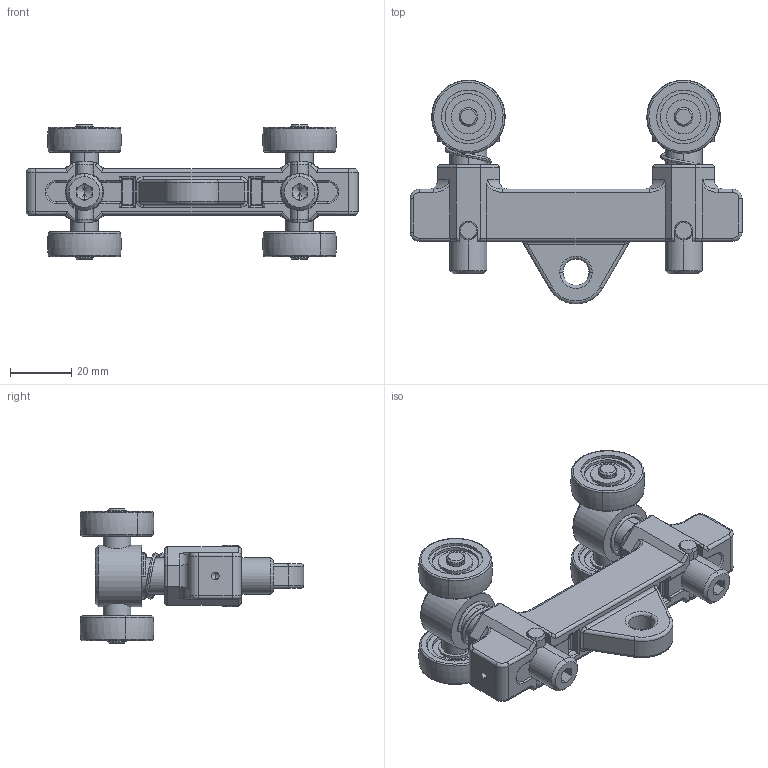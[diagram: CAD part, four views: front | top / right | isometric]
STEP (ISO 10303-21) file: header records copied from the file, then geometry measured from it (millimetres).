
FILE_DESCRIPTION (( 'STEP AP203' ), '1' );
FILE_NAME ('800.019.102.STEP', '2013-01-22T14:15:07', ( 'Alusic' ), ( 'Alusic' ), 'SwSTEP 2.0', 'SolidWorks 2011', '' );
FILE_SCHEMA (( 'CONFIG_CONTROL_DESIGN' ));
Length unit declared in the file: millimetre
Products named in the file (9): 800.019.121; 800.019.119; 800.019.102; 800.019.120; 800.019.117; 800.019.116_Default<A macchina>; Parallel Pin Hardened_BSI_Parallel Pin ISO 8734 - 6 x 20 - A - St; 800.019.118; 800.019.114
Assembly tree (21 placements, depth 2):
  800.019.102
    800.019.118  x2
    800.019.120  x4
    800.019.121  x2
    800.019.117  x4
    800.019.116_Default<A macchina>  x4
    800.019.119  x2
    800.019.114
    Parallel Pin Hardened_BSI_Parallel Pin ISO 8734 - 6 x 20 - A - St  x2
Bounding box: 108 x 72.79 x 43.8 mm (x, y, z)
Volume: 61391.5 mm3; surface area: 33791.2 mm2
Topology: 21 solids, 21 shells, 529 faces, 1186 edges, 720 vertices
Faces by surface type: cylinder 253, plane 156, torus 52, cone 48, bspline 20
Entity records: 12605 total; most frequent: CARTESIAN_POINT 3923, DIRECTION 1570, ORIENTED_EDGE 1540, EDGE_CURVE 770, AXIS2_PLACEMENT_3D 594, VERTEX_POINT 463, LINE 382, VECTOR 382
